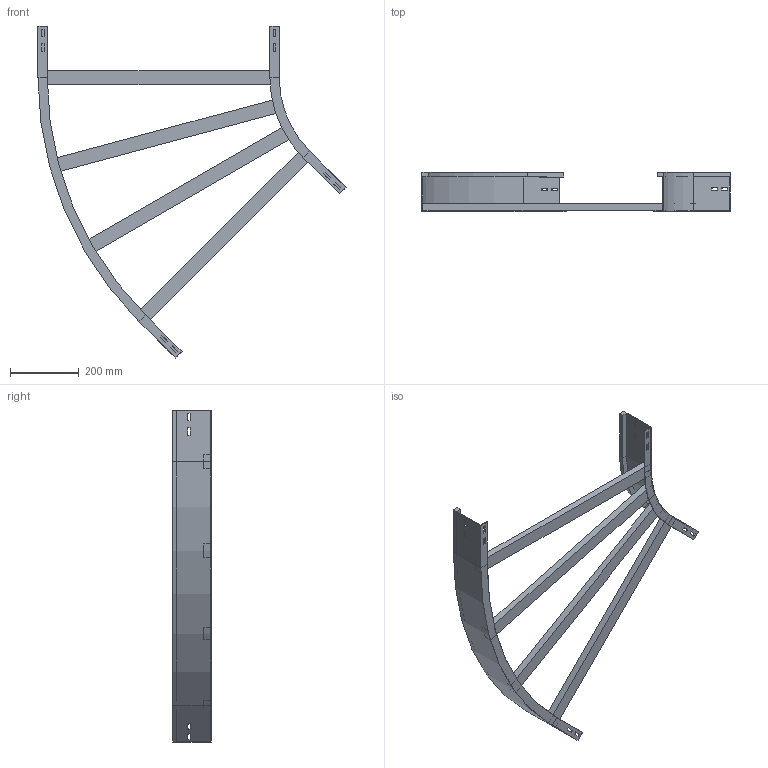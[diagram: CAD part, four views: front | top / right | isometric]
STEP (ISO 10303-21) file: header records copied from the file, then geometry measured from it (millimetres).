
FILE_DESCRIPTION (( 'STEP AP214' ), '1' );
FILE_NAME ('A2_11B3J700.step', '2025-02-21T15:14:30', ( '' ), ( '' ), 'SwSTEP 2.0', 'SolidWorks 2023', '' );
FILE_SCHEMA (( 'AUTOMOTIVE_DESIGN' ));
Length unit declared in the file: millimetre
Products named in the file (4): A2_11B3J700; A2_LONGH.INTERNO 45°_H112.5_R300; TRAVERSINO_700; A2_LONGH.ESTERNO 45°_H112.5_R300+700
Assembly tree (6 placements, depth 2):
  A2_11B3J700
    A2_LONGH.INTERNO 45°_H112.5_R300
    A2_LONGH.ESTERNO 45°_H112.5_R300+700
    TRAVERSINO_700  x4
Bounding box: 893.93 x 112.5 x 963.17 mm (x, y, z)
Volume: 3007127.2 mm3; surface area: 846276.5 mm2
Topology: 6 solids, 6 shells, 140 faces, 352 edges, 224 vertices
Faces by surface type: plane 132, cylinder 8
Entity records: 3829 total; most frequent: CARTESIAN_POINT 647, ORIENTED_EDGE 632, DIRECTION 594, EDGE_CURVE 316, VECTOR 300, LINE 300, VERTEX_POINT 200, EDGE_LOOP 154
